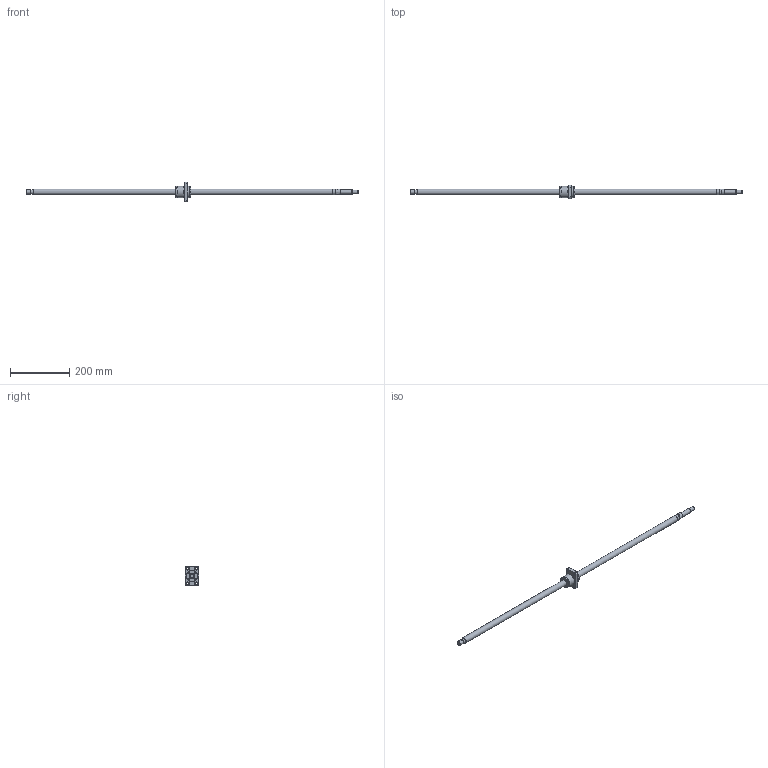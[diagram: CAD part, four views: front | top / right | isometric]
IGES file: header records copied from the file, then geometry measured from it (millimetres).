
Start section: Data from Parasolid IGES Translator 26.0.171, Copyright(c) 2006 Siemens PLM Software. All Rights Reserved.
Global section: file name: BNK2020-3.6G0+1120LC5Y(5310).igs; native system: By Siemens PLM Incorporated; preprocessor: XPlus GENERIC/IGES 26.0.171; author: Noname; organization: Noname; date: 20240709.094034; units: millimetre
Bounding box: 1120 x 46 x 66 mm (x, y, z)
Surface area: 87064.2 mm2 (no closed solid volume)
Topology: 0 solids, 0 shells, 139 faces, 643 edges, 578 vertices
Faces by surface type: extrusion 75, revolution 64
